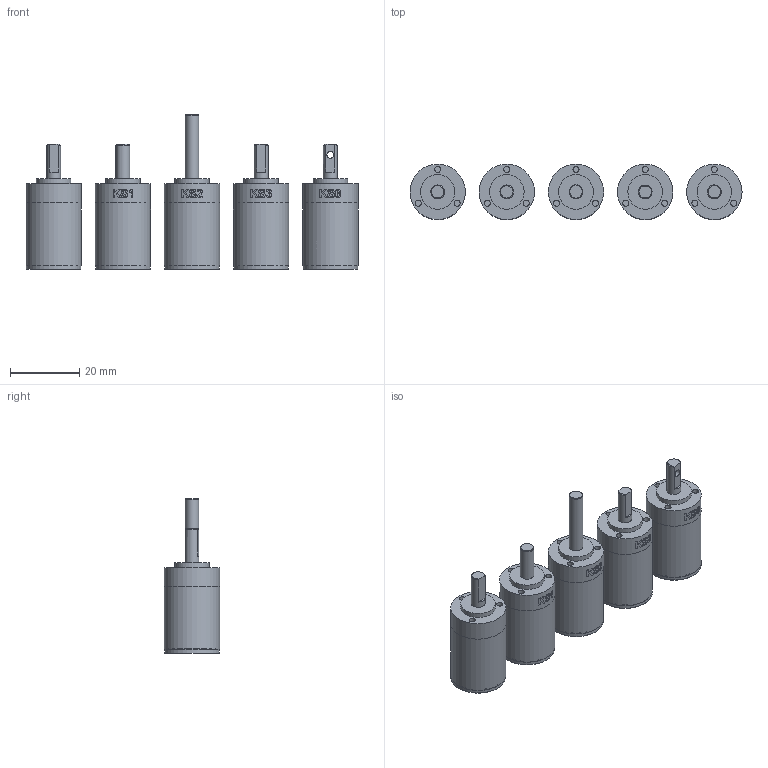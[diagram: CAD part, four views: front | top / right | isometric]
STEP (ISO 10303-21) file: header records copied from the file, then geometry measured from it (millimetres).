
FILE_DESCRIPTION(/* description */ (''),/* implementation_level */ '2;1');
FILE_NAME(/* name */ '16GPT-3stage_standard+KSx.stp',/* time_stamp */ '2024-11-12T10:22:03+01:00',/* author */ ('DR. FRITZ FAULHABER GmbH & Co. KG'),/* organization */ ('DR. FRITZ FAULHABER GmbH & Co. KG'),/* preprocessor_version */ 'ST-DEVELOPER v19.3',/* originating_system */ 'SIEMENS PLM Software NX2212.4000',/* authorisation */ '');
FILE_SCHEMA (('AUTOMOTIVE_DESIGN { 1 0 10303 214 3 1 1 1 }'));
Length unit declared in the file: millimetre
Products named in the file (1): A_objects
Bounding box: 96 x 16 x 44.7 mm (x, y, z)
Volume: 24181 mm3; surface area: 10103.5 mm2
Topology: 5 solids, 5 shells, 251 faces, 523 edges, 355 vertices
Faces by surface type: plane 114, cylinder 79, bspline 52, cone 6
Full cylindrical faces by diameter (mm): 1.75 x15, 2 x1, 2.902 x5, 4 x5, 10 x5, 10.6 x5, 14.8 x5, 15.4 x5, 15.8 x5, 15.999 x5, 16 x10
Entity records: 12035 total; most frequent: CARTESIAN_POINT 6727, ORIENTED_EDGE 860, DIRECTION 777, EDGE_CURVE 430, EDGE_LOOP 395, AXIS2_PLACEMENT_3D 362, VERTEX_POINT 331, FACE_BOUND 260
